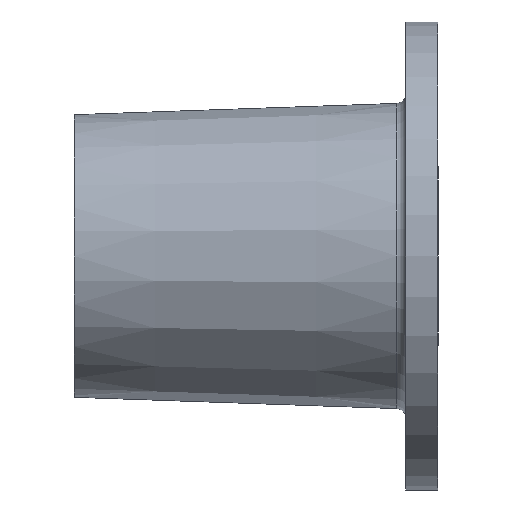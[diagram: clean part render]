
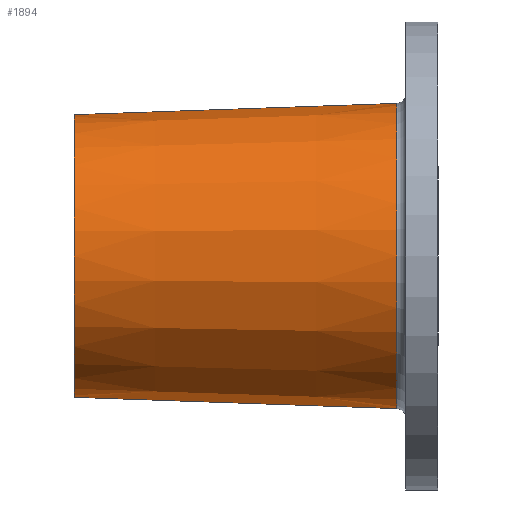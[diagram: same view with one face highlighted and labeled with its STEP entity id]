
A CAD part, left-side view. The second image highlights one B-rep face of the part: STEP entity #1894.
In plain terms, the highlighted conical face has half-angle 2 degrees and reference radius 69.017 mm.
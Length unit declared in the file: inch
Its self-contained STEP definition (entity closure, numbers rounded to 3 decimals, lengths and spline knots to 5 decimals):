
#5 = DIRECTION ( 'NONE',  ( 0., 0., -1. ) ) ;
#31 = DIRECTION ( 'NONE',  ( 0., -1., 0. ) ) ;
#36 = CARTESIAN_POINT ( 'NONE',  ( 0., 7., 0. ) ) ;
#83 = CIRCLE ( 'NONE', #3128, 2.71721 ) ;
#487 = AXIS2_PLACEMENT_3D ( 'NONE', #5678, #5588, #5076 ) ;
#492 = VECTOR ( 'NONE', #1633, 39.37008 ) ;
#510 = ORIENTED_EDGE ( 'NONE', *, *, #3154, .T. ) ;
#663 = FACE_OUTER_BOUND ( 'NONE', #5322, .T. ) ;
#763 = CARTESIAN_POINT ( 'NONE',  ( 0., 7., 2.71721 ) ) ;
#818 = LINE ( 'NONE', #1388, #492 ) ;
#986 = EDGE_CURVE ( 'NONE', #2023, #4910, #83, .T. ) ;
#1222 = CARTESIAN_POINT ( 'NONE',  ( 0., 7., 2.71721 ) ) ;
#1229 = ORIENTED_EDGE ( 'NONE', *, *, #986, .T. ) ;
#1364 = VERTEX_POINT ( 'NONE', #5133 ) ;
#1388 = CARTESIAN_POINT ( 'NONE',  ( 0., 7., -2.71721 ) ) ;
#1531 = ORIENTED_EDGE ( 'NONE', *, *, #5543, .T. ) ;
#1590 = DIRECTION ( 'NONE',  ( 0., 0., -1. ) ) ;
#1633 = DIRECTION ( 'NONE',  ( 0., -0.999, -0.035 ) ) ;
#1671 = DIRECTION ( 'NONE',  ( 0., -1., 0. ) ) ;
#1781 = CARTESIAN_POINT ( 'NONE',  ( 0., 7., 0. ) ) ;
#1894 = ADVANCED_FACE ( 'NONE', ( #663 ), #5671, .T. ) ;
#2023 = VERTEX_POINT ( 'NONE', #763 ) ;
#2053 = CARTESIAN_POINT ( 'NONE',  ( 0., 7., -2.71721 ) ) ;
#2179 = VERTEX_POINT ( 'NONE', #5016 ) ;
#3126 = VECTOR ( 'NONE', #6121, 39.37008 ) ;
#3128 = AXIS2_PLACEMENT_3D ( 'NONE', #36, #31, #5 ) ;
#3154 = EDGE_CURVE ( 'NONE', #2179, #1364, #5297, .T. ) ;
#4728 = ORIENTED_EDGE ( 'NONE', *, *, #5252, .F. ) ;
#4910 = VERTEX_POINT ( 'NONE', #2053 ) ;
#5016 = CARTESIAN_POINT ( 'NONE',  ( 0., 0.79372, -2.93393 ) ) ;
#5076 = DIRECTION ( 'NONE',  ( 0., 0., -1. ) ) ;
#5133 = CARTESIAN_POINT ( 'NONE',  ( 0., 0.79372, 2.93393 ) ) ;
#5191 = AXIS2_PLACEMENT_3D ( 'NONE', #1781, #1671, #1590 ) ;
#5252 = EDGE_CURVE ( 'NONE', #2023, #1364, #5589, .T. ) ;
#5297 = CIRCLE ( 'NONE', #487, 2.93393 ) ;
#5322 = EDGE_LOOP ( 'NONE', ( #4728, #1229, #1531, #510 ) ) ;
#5543 = EDGE_CURVE ( 'NONE', #4910, #2179, #818, .T. ) ;
#5588 = DIRECTION ( 'NONE',  ( 0., 1., 0. ) ) ;
#5589 = LINE ( 'NONE', #1222, #3126 ) ;
#5671 = CONICAL_SURFACE ( 'NONE', #5191, 2.71721, 0.035 ) ;
#5678 = CARTESIAN_POINT ( 'NONE',  ( 0., 0.79372, 0. ) ) ;
#6121 = DIRECTION ( 'NONE',  ( 0., -0.999, 0.035 ) ) ;
